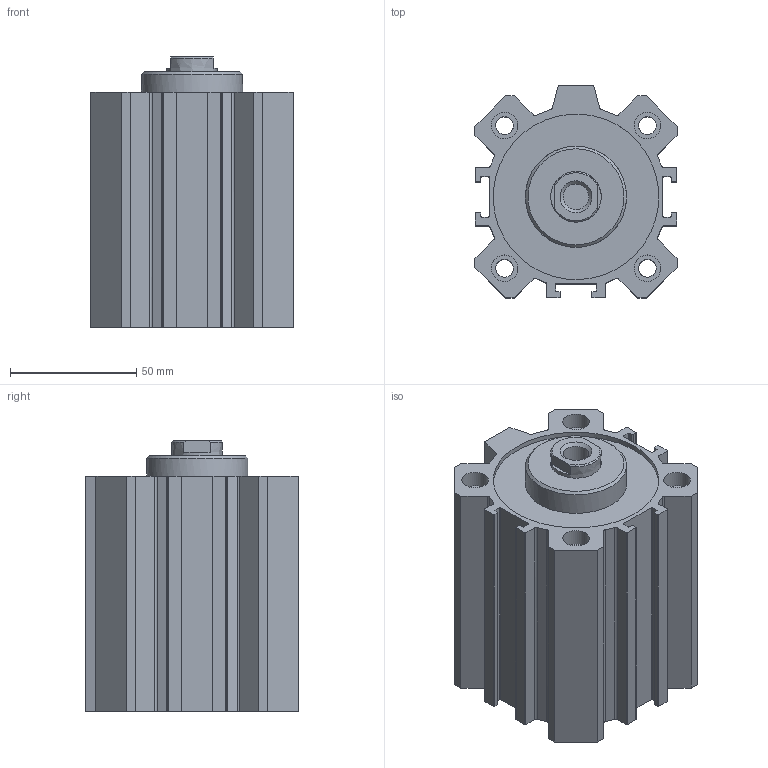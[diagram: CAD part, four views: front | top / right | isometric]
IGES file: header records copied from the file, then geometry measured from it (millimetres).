
Global section: file name: 1511_63_0050; native system: Autodesk Inventor 2014; preprocessor: unknown; author: A. Manieri; date: 20160824.140134; units: millimetre
Bounding box: 80 x 84 x 107 mm (x, y, z)
Volume: 342431.7 mm3; surface area: 94522.7 mm2
Topology: 2 solids, 2 shells, 165 faces, 443 edges, 300 vertices
Faces by surface type: bspline 165
